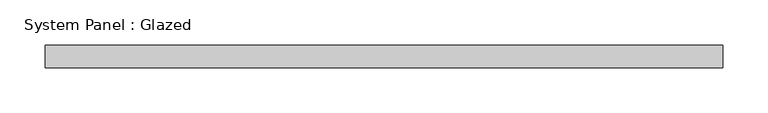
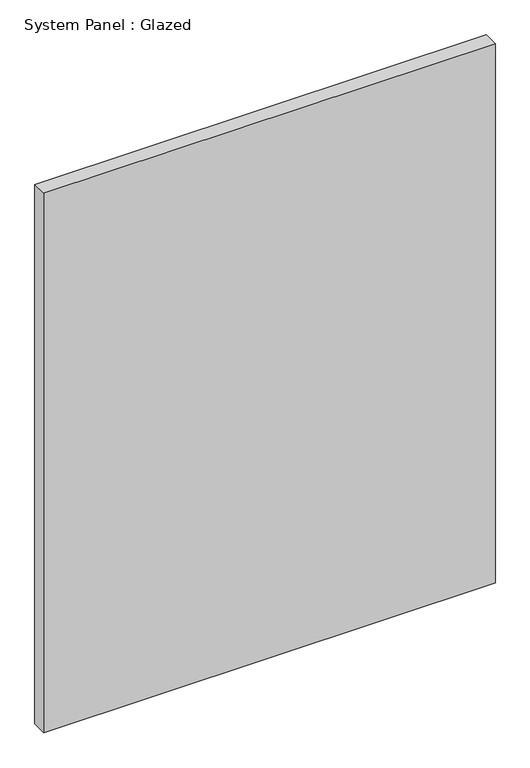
"""IFC4 building model written with IfcOpenShell, lengths in millimetres: plate geometry, System Panel : Glazed."""

import ifcopenshell
import ifcopenshell.guid

model = None  # the IFC model being written
_history = None  # IfcOwnerHistory: only IFC2X3 demands one
_inside = {}  # id of a spatial element -> (the spatial element, [elements in it])
_under = {}  # id of a project, library or spatial element -> (it, [spatial elements below it])
_declared = {}  # id of a project -> (the project, [libraries it declares])
_typed = {}  # id of a type object -> (the type object, [elements of that type])
_made_of = {}  # id of a material, layer set ... -> (it, [elements and type objects made of it])


def new_model(schema):
    """Start an empty IFC model of exactly this schema.

    Asked for "IFC4X3", IfcOpenShell would pick the latest addendum, in which some entities
    have other attributes; the version numbers below select the first issue.
    IFC2X3 requires an IfcOwnerHistory on every rooted entity: one is made here for all.
    """
    global model, _history
    if schema == "IFC4X3":
        model = ifcopenshell.file(schema_version=(4, 3, 0, 0))
    else:
        model = ifcopenshell.file(schema=schema)
    _inside.clear()
    _under.clear()
    _declared.clear()
    _typed.clear()
    _made_of.clear()
    _history = None
    if model.schema == "IFC2X3":
        org = make("IfcOrganization", Name="unknown")
        user = make(
            "IfcPersonAndOrganization",
            ThePerson=make("IfcPerson", FamilyName="unknown"),
            TheOrganization=org,
        )
        app = make(
            "IfcApplication",
            ApplicationDeveloper=org,
            Version="unknown",
            ApplicationFullName="unknown",
            ApplicationIdentifier="unknown",
        )
        _history = make(
            "IfcOwnerHistory",
            OwningUser=user,
            OwningApplication=app,
            ChangeAction="ADDED",
            CreationDate=0,
        )
    return model


def make(cls, **values):
    """One entity of the class cls with the attributes given. An attribute that is None is left unset."""
    return model.create_entity(
        cls, **{name: value for name, value in values.items() if value is not None}
    )


def rooted(cls, **values):
    """An entity with a GlobalId (a new one), such as an element, a storey or a relation."""
    return make(cls, GlobalId=ifcopenshell.guid.new(), OwnerHistory=_history, **values)


def si_unit(unit_type, name, prefix=None):
    """IfcSIUnit, for example si_unit("LENGTHUNIT", "METRE", prefix="MILLI")."""
    return make("IfcSIUnit", UnitType=unit_type, Prefix=prefix, Name=name)


def assignment(units):
    """IfcUnitAssignment: the units of a project."""
    return None if units is None else make("IfcUnitAssignment", Units=units)


def point(xyz):
    """IfcCartesianPoint."""
    return None if xyz is None else make("IfcCartesianPoint", Coordinates=xyz)


def direction(xyz):
    """IfcDirection."""
    return None if xyz is None else make("IfcDirection", DirectionRatios=xyz)


def frame(location, z_axis=None, x_axis=None):
    """IfcAxis2Placement3D, a coordinate frame: its origin and axes. An axis left out is left unset."""
    return make(
        "IfcAxis2Placement3D",
        Location=point(location),
        Axis=direction(z_axis),
        RefDirection=direction(x_axis),
    )


def origin():
    """The frame at (0, 0, 0) with its axes left unset."""
    return frame((0.0, 0.0, 0.0))


def origin_with_axes():
    """The frame at (0, 0, 0) with the z axis (0, 0, 1) and the x axis (1, 0, 0) written out."""
    return frame((0.0, 0.0, 0.0), z_axis=(0.0, 0.0, 1.0), x_axis=(1.0, 0.0, 0.0))


def place(relative_to, where):
    """IfcLocalPlacement: puts the frame where relative to a parent placement (None: the world)."""
    return make(
        "IfcLocalPlacement", PlacementRelTo=relative_to, RelativePlacement=where
    )


def context(
    kind, dimensions, precision=None, world=None, true_north=None, identifier=None
):
    """IfcGeometricRepresentationContext, for example the 3D "Model" context."""
    return make(
        "IfcGeometricRepresentationContext",
        ContextIdentifier=identifier,
        ContextType=kind,
        CoordinateSpaceDimension=dimensions,
        Precision=precision,
        WorldCoordinateSystem=world,
        TrueNorth=true_north,
    )


def project(units=None, contexts=None):
    """IfcProject with its units and contexts."""
    return rooted(
        "IfcProject",
        Name="project",
        RepresentationContexts=contexts,
        UnitsInContext=assignment(units),
    )


def spatial(cls, under=None, at=None, **own):
    """A site, building, storey or space (cls), placed at a placement, below another one or the project."""
    s = rooted(cls, ObjectPlacement=at, **own)
    if under is not None:
        _under.setdefault(under.id(), (under, []))[1].append(s)
    return s


def polyline(points):
    """IfcPolyline through the points."""
    return make("IfcPolyline", Points=[point(p) for p in points])


def outline(outer, holes=None, kind="AREA"):
    """IfcArbitraryClosedProfileDef: a profile drawn as a closed curve; with holes, ...WithVoids."""
    if holes is None:
        return make("IfcArbitraryClosedProfileDef", ProfileType=kind, OuterCurve=outer)
    return make(
        "IfcArbitraryProfileDefWithVoids",
        ProfileType=kind,
        OuterCurve=outer,
        InnerCurves=holes,
    )


def extrude(swept, where, along, depth):
    """IfcExtrudedAreaSolid: the profile swept, set in the frame where, extruded along a direction by depth."""
    return make(
        "IfcExtrudedAreaSolid",
        SweptArea=swept,
        Position=where,
        ExtrudedDirection=direction(along),
        Depth=depth,
    )


def shape(context_of_items, identifier, shape_type, items):
    """IfcShapeRepresentation: the items that make up one representation, for example the "Body"."""
    return make(
        "IfcShapeRepresentation",
        ContextOfItems=context_of_items,
        RepresentationIdentifier=identifier,
        RepresentationType=shape_type,
        Items=items,
    )


def source(mapping_origin, context_of_items, identifier, shape_type, items):
    """IfcRepresentationMap: a shape defined once, which mapped items show again and again."""
    return make(
        "IfcRepresentationMap",
        MappingOrigin=mapping_origin,
        MappedRepresentation=shape(context_of_items, identifier, shape_type, items),
    )


def transform(
    local_origin,
    x_axis=None,
    y_axis=None,
    z_axis=None,
    scale=None,
    scale2=None,
    scale3=None,
    uniform=True,
):
    """IfcCartesianTransformationOperator3D, or its non-uniform kind. x_axis, y_axis, z_axis: its Axis1, 2, 3."""
    if uniform:
        return make(
            "IfcCartesianTransformationOperator3D",
            Axis1=direction(x_axis),
            Axis2=direction(y_axis),
            LocalOrigin=point(local_origin),
            Scale=scale,
            Axis3=direction(z_axis),
        )
    return make(
        "IfcCartesianTransformationOperator3DnonUniform",
        Axis1=direction(x_axis),
        Axis2=direction(y_axis),
        LocalOrigin=point(local_origin),
        Scale=scale,
        Axis3=direction(z_axis),
        Scale2=scale2,
        Scale3=scale3,
    )


def mapped(mapping_source, mapping_target):
    """IfcMappedItem: shows the shape of a source again, moved by a transform."""
    return make(
        "IfcMappedItem", MappingSource=mapping_source, MappingTarget=mapping_target
    )


def made_of(thing, what):
    """Note that an element or type object is made of a material, layer set ...; save() writes the relation."""
    if what is not None:
        _made_of.setdefault(what.id(), (what, []))[1].append(thing)
    return thing


def element(
    cls,
    number,
    at=None,
    inside=None,
    cuts=None,
    type_object=None,
    material=None,
    context=None,
    identifier="Body",
    shape_type=None,
    held_by="IfcProductDefinitionShape",
    body=None,
    shapes=None,
    **own,
):
    """One element of the class cls, such as IfcWall. Its Tag is "e" and its number.

    at: its placement. inside: the storey or other place that contains it. cuts: it is an
    opening in that element (IfcRelVoidsElement). A single representation is given by context,
    identifier, shape_type and body (its items); several are given by shapes. held_by: the class
    of the entity that holds the representations. save() writes the other relations.
    """
    e = rooted(cls, Tag="e%d" % number, ObjectPlacement=at, **own)
    if body is not None:
        shapes = [shape(context, identifier, shape_type, body)]
    if shapes is not None:
        e.Representation = make(held_by, Representations=shapes)
    if inside is not None:
        _inside.setdefault(inside.id(), (inside, []))[1].append(e)
    if cuts is not None:
        rooted(
            "IfcRelVoidsElement", RelatingBuildingElement=cuts, RelatedOpeningElement=e
        )
    if type_object is not None:
        _typed.setdefault(type_object.id(), (type_object, []))[1].append(e)
    return made_of(e, material)


def aggregate(whole, parts):
    """IfcRelAggregates: a whole, such as a stair, and the parts it consists of."""
    return rooted("IfcRelAggregates", RelatingObject=whole, RelatedObjects=parts)


def save(model, path):
    """Write the relations noted so far, then the file.

    IfcRelAggregates (storeys below a building ...), IfcRelContainedInSpatialStructure (elements
    in a storey), IfcRelDefinesByType, IfcRelAssociatesMaterial and IfcRelDeclares: one each for
    every whole, place, type object, material and project.
    """
    for whole, parts in _under.values():
        aggregate(whole, parts)
    for where, things in _inside.values():
        rooted(
            "IfcRelContainedInSpatialStructure",
            RelatedElements=things,
            RelatingStructure=where,
        )
    for kind, things in _typed.values():
        rooted("IfcRelDefinesByType", RelatedObjects=things, RelatingType=kind)
    for what, things in _made_of.values():
        rooted("IfcRelAssociatesMaterial", RelatedObjects=things, RelatingMaterial=what)
    for by, libraries in _declared.values():
        rooted("IfcRelDeclares", RelatingContext=by, RelatedDefinitions=libraries)
    model.write(path)


def system_panel_glazed_db75a631(model_context):
    return source(origin(), model_context, "Body", "SweptSolid", [
        extrude(outline(polyline([(376.1582035, 24.5), (-376.1582035, 24.5), (-376.1582035, 49.5), (376.1582035, 49.5), (376.1582035, 24.5)])), origin_with_axes(), (0.0, 0.0, 1.0), 950.0),
    ])


if __name__ == "__main__":
    model = new_model("IFC4")
    model_context = context("Model", 3, world=origin())
    ifc_project = project(units=[si_unit("LENGTHUNIT", "METRE", prefix="MILLI")], contexts=[model_context])
    site = spatial("IfcSite", under=ifc_project)
    building = spatial("IfcBuilding", under=site)
    placement = place(None, origin())
    system_panel_glazed_shape = system_panel_glazed_db75a631(model_context)
    element("IfcPlate", 1, ObjectType="System Panel : Glazed", at=placement, inside=building, context=model_context, shape_type="MappedRepresentation", body=[
        mapped(system_panel_glazed_shape, transform((0.0, 0.0, 0.0), x_axis=(1.0, 0.0, 0.0), y_axis=(0.0, 1.0, 0.0), z_axis=(0.0, 0.0, 1.0))),
    ])
    save(model, "model.ifc")
